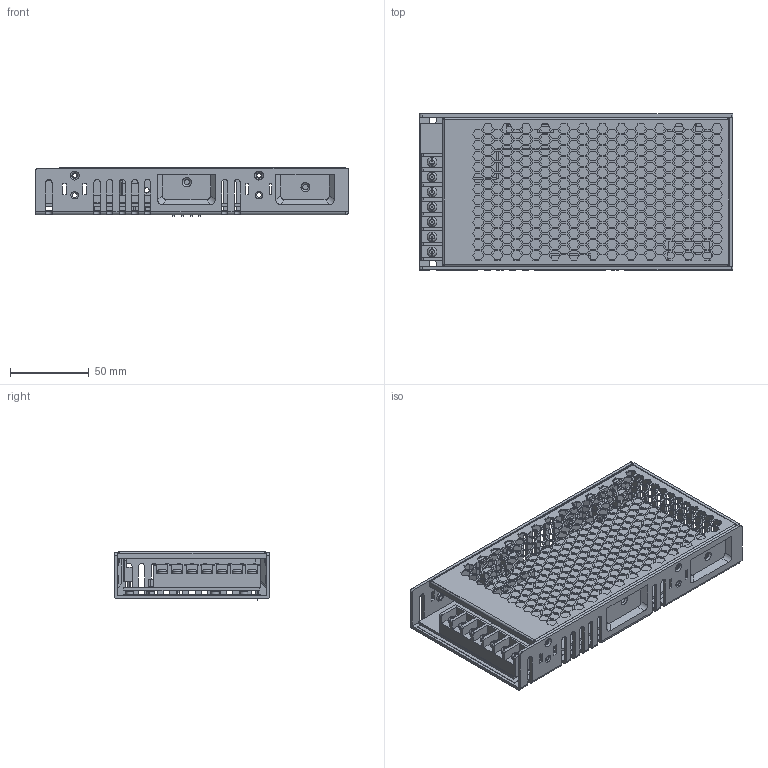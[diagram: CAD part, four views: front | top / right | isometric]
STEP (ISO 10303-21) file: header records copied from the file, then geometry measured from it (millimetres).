
FILE_DESCRIPTION(('OneSpaceDesigner STEP Export'),'2;1');
FILE_NAME('RSP-150.stp','2013-11-27T16:27:03',(''),(''),'OneSpace Designer STEP processor for AP214 (Solid Model)','OneSpace Designer 13.20 11-May-2005 (C) CoCreate Software GmbH','');
FILE_SCHEMA(('AUTOMOTIVE_DESIGN { 1 0 10303 214 1 1 1 1 }'));
Length unit declared in the file: millimetre
Products named in the file (14): tn.1.1.1; pcb; FAN-ALL; uu.3; SM; a1.1; MMMM; HS2; M3-7L.1.2; ©³®y.1.2; ©³®y; MOS15.5x10.1.1.1.1.1.1.1.1.1.1.1.2.1.1; mos; RSP-150
Assembly tree (22 placements, depth 3):
  RSP-150
    mos
      MOS15.5x10.1.1.1.1.1.1.1.1.1.1.1.2.1.1  x6
    ©³®y
      M3-7L.1.2  x5
      ©³®y.1.2
    HS2
    MMMM
    a1.1
      SM
      uu.3
      FAN-ALL
      pcb
      tn.1.1.1
Bounding box: 199 x 99 x 30.9 mm (x, y, z)
Volume: 116916.9 mm3; surface area: 172735.7 mm2
Topology: 18 solids, 18 shells, 2854 faces, 8249 edges, 5451 vertices
Faces by surface type: plane 2453, cylinder 331, torus 54, cone 16
Entity records: 89430 total; most frequent: CARTESIAN_POINT 17834, ORIENTED_EDGE 15694, DIRECTION 12956, EDGE_CURVE 7847, VECTOR 7082, LINE 7082, VERTEX_POINT 5183, EDGE_LOOP 3392
